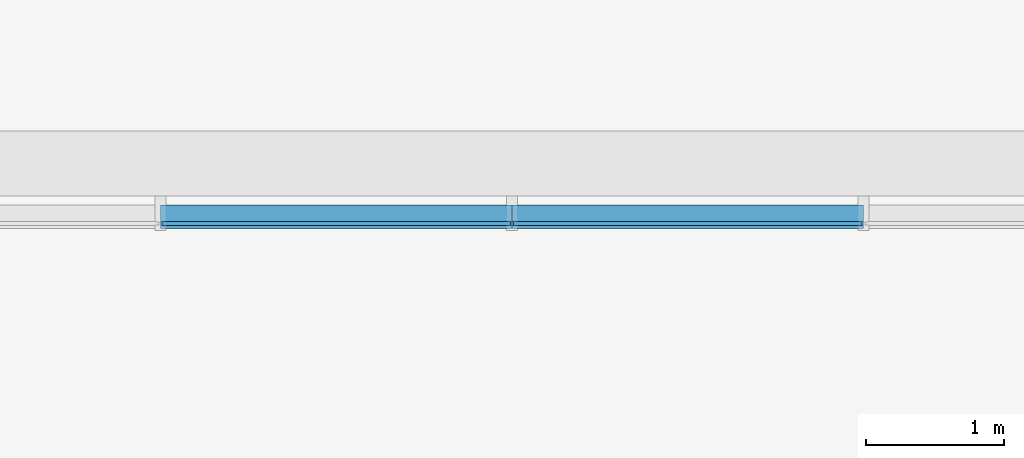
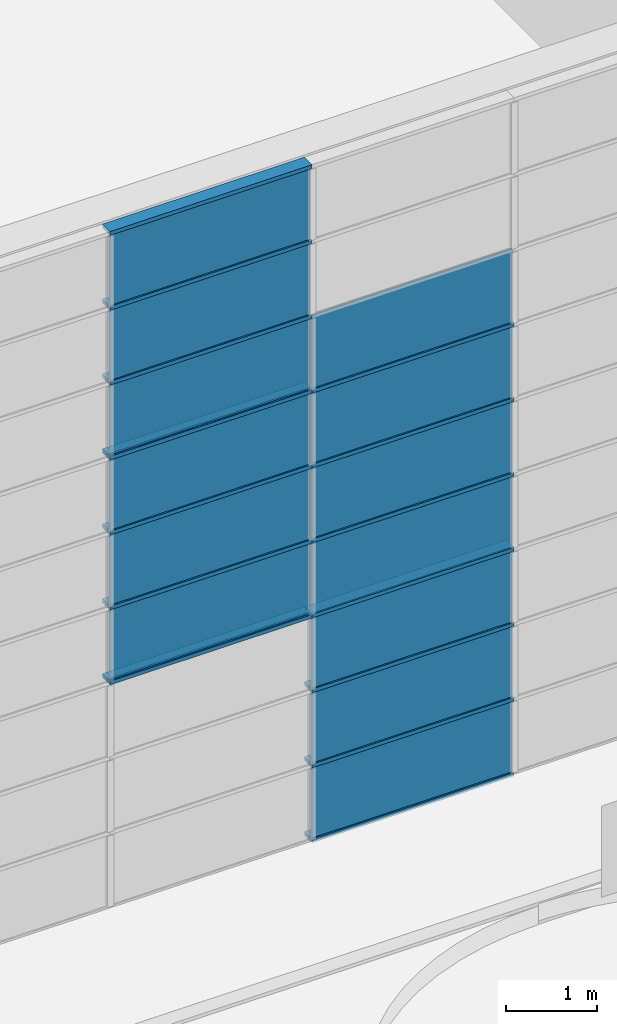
# One storey, part 56 of 105: 30 building element parts, 3 elements without a shape of their own.
"""IFC4 building model written with IfcOpenShell, lengths in millimetres."""

from ifc_helpers import new_model, entity, si_unit, converted_unit, derived_unit, direction, frame, origin_with_axes, place, context, subcontext, project, spatial, triangles, material, element, aggregate, save


model = new_model("IFC4")

# Units and contexts
model_context = context("Model", 3, precision=1e-05, world=origin_with_axes(), true_north=direction((0.0, 1.0)))
body_context = subcontext(model_context, "Body", "Model", "MODEL_VIEW")
ifc_project = project(units=[si_unit("LENGTHUNIT", "METRE", prefix="MILLI"), si_unit("AREAUNIT", "SQUARE_METRE"), si_unit("VOLUMEUNIT", "CUBIC_METRE"), converted_unit("PLANEANGLEUNIT", "DEGREE", entity("IfcLengthMeasure", 0.017453), si_unit("PLANEANGLEUNIT", "RADIAN"), dimensions=[0, 0, 0, 0, 0, 0, 0]), si_unit("SOLIDANGLEUNIT", "STERADIAN"), si_unit("MASSUNIT", "GRAM"), si_unit("TIMEUNIT", "SECOND"), si_unit("THERMODYNAMICTEMPERATUREUNIT", "DEGREE_CELSIUS"), si_unit("LUMINOUSINTENSITYUNIT", "LUMEN"), si_unit("POWERUNIT", "WATT"), derived_unit("THERMALTRANSMITTANCEUNIT", [(si_unit("POWERUNIT", "WATT"), 1), (si_unit("THERMODYNAMICTEMPERATUREUNIT", "KELVIN"), -1), (si_unit("AREAUNIT", "SQUARE_METRE"), -1)])], contexts=[model_context])

# Site, building, storey
site_placement = place(None, origin_with_axes())
site = spatial("IfcSite", under=ifc_project, at=site_placement, Name="Default Site", CompositionType="ELEMENT")
building_placement = place(site_placement, origin_with_axes())
building = spatial("IfcBuilding", under=site, at=building_placement, Name="Default Building", CompositionType="ELEMENT")
storey_placement = place(building_placement, origin_with_axes())
storey = spatial("IfcBuildingStorey", under=building, at=storey_placement, Name="OG - Story", CompositionType="ELEMENT", Elevation=0.0)

# Curtain wall, building element parts
curtain_wall_1_placement = place(storey_placement, origin_with_axes())
curtain_wall_1 = element("IfcCurtainWall", 1, at=curtain_wall_1_placement, inside=storey, Name="Fassade-005", PredefinedType="NOTDEFINED")
ifc_material_1 = material(Name="Normalglas")
building_element_part_1_placement = place(curtain_wall_1_placement, frame((52496.845873, -27789.262838, 3000.0), z_axis=(0.0, 0.0, 1.0), x_axis=(1.0, 0.0, 0.0)))
building_element_part_1 = element("IfcBuildingElementPart", 2, at=building_element_part_1_placement, material=ifc_material_1, Name="Normalglas", PredefinedType="NOTDEFINED", context=body_context, shape_type="Tessellation", body=[
    triangles([(19121.818, 15.0, 995.0), (16590.909, 15.0, 995.0), (16590.909, -14.999, 995.0), (19121.818, -14.999, 995.0), (19121.818, 15.0, 5.0), (16590.909, 15.0, 5.0), (16590.909, -14.999, 5.0), (19121.818, -14.999, 5.0)], [[1, 2, 3], [1, 3, 4], [1, 5, 6], [1, 6, 2], [2, 6, 7], [2, 7, 3], [4, 3, 7], [4, 7, 8], [5, 1, 4], [5, 4, 8], [6, 5, 8], [6, 8, 7]], closed=False),
])
building_element_part_2_placement = place(curtain_wall_1_placement, frame((52496.845873, -27789.262838, 3000.0), z_axis=(0.0, 0.0, 1.0), x_axis=(1.0, 0.0, 0.0)))
building_element_part_2 = element("IfcBuildingElementPart", 3, at=building_element_part_2_placement, material=ifc_material_1, Name="Normalglas", PredefinedType="NOTDEFINED", context=body_context, shape_type="Tessellation", body=[
    triangles([(19121.818, 15.0, 1995.0), (16590.909, 15.0, 1995.0), (16590.909, -14.999, 1995.0), (19121.818, -14.999, 1995.0), (19121.818, 15.0, 1005.0), (16590.909, 15.0, 1005.0), (16590.909, -14.999, 1005.0), (19121.818, -14.999, 1005.0)], [[1, 2, 3], [1, 3, 4], [1, 5, 6], [1, 6, 2], [2, 6, 7], [2, 7, 3], [4, 3, 7], [4, 7, 8], [5, 1, 4], [5, 4, 8], [6, 5, 8], [6, 8, 7]], closed=False),
])
building_element_part_3_placement = place(curtain_wall_1_placement, frame((52496.845873, -27789.262838, 3000.0), z_axis=(0.0, 0.0, 1.0), x_axis=(1.0, 0.0, 0.0)))
building_element_part_3 = element("IfcBuildingElementPart", 4, at=building_element_part_3_placement, material=ifc_material_1, Name="Normalglas", PredefinedType="NOTDEFINED", context=body_context, shape_type="Tessellation", body=[
    triangles([(19121.818, 15.0, 2995.0), (16590.909, 15.0, 2995.0), (16590.909, -14.999, 2995.0), (19121.818, -14.999, 2995.0), (19121.818, 15.0, 2005.0), (16590.909, 15.0, 2005.0), (16590.909, -14.999, 2005.0), (19121.818, -14.999, 2005.0)], [[1, 2, 3], [1, 3, 4], [1, 5, 6], [1, 6, 2], [2, 6, 7], [2, 7, 3], [4, 3, 7], [4, 7, 8], [5, 1, 4], [5, 4, 8], [6, 5, 8], [6, 8, 7]], closed=False),
])
ifc_material_2 = material(Name="Blech")
building_element_part_4_placement = place(curtain_wall_1_placement, frame((52496.845873, -27789.262838, 3000.0), z_axis=(0.0, 0.0, 1.0), x_axis=(1.0, 0.0, 0.0)))
building_element_part_4 = element("IfcBuildingElementPart", 5, at=building_element_part_4_placement, material=ifc_material_2, Name="Blech", PredefinedType="NOTDEFINED", context=body_context, shape_type="Tessellation", body=[
    triangles([(19131.818, 15.0, 25.0), (19131.818, 133.0, 25.0), (19131.818, 15.0, 5.0), (19131.818, 133.0, -24.999), (19131.818, -14.999, 5.0), (19131.818, -34.999, -24.999), (19131.818, -14.999, 25.0), (19131.818, -34.999, 25.0), (16580.909, 15.0, 5.0), (16580.909, -14.999, 5.0), (16580.909, -14.999, 25.0), (16580.909, -34.999, 25.0), (16580.909, -34.999, -24.999), (16580.909, 133.0, -24.999), (16580.909, 133.0, 25.0), (16580.909, 15.0, 25.0)], [[1, 2, 3], [3, 2, 4], [3, 4, 5], [5, 4, 6], [5, 6, 7], [7, 6, 8], [5, 3, 9], [5, 9, 10], [11, 7, 5], [11, 5, 10], [7, 11, 12], [7, 12, 8], [13, 6, 8], [13, 8, 12], [14, 4, 6], [14, 6, 13], [15, 2, 4], [15, 4, 14], [16, 1, 2], [16, 2, 15], [3, 1, 16], [3, 16, 9], [16, 15, 9], [9, 15, 14], [9, 14, 10], [10, 14, 13], [10, 13, 11], [11, 13, 12]], closed=False),
])
building_element_part_5_placement = place(curtain_wall_1_placement, frame((52496.845873, -27789.262838, 3000.0), z_axis=(0.0, 0.0, 1.0), x_axis=(1.0, 0.0, 0.0)))
building_element_part_5 = element("IfcBuildingElementPart", 6, at=building_element_part_5_placement, material=ifc_material_2, Name="Blech", PredefinedType="NOTDEFINED", context=body_context, shape_type="Tessellation", body=[
    triangles([(19131.818, 133.0, 1025.0), (19131.818, 15.0, 1025.0), (19131.818, 133.0, 975.0), (19131.818, 15.0, 1005.0), (19131.818, 15.0, 995.0), (19131.818, -14.999, 1005.0), (19131.818, -14.999, 995.0), (19131.818, -14.999, 975.0), (19131.818, -14.999, 1025.0), (19131.818, -34.999, 1025.0), (19131.818, -34.999, 975.0), (19131.818, 15.0, 975.0), (16580.909, 15.0, 995.0), (16580.909, 15.0, 975.0), (16580.909, 133.0, 975.0), (16580.909, 133.0, 1025.0), (16580.909, 15.0, 1025.0), (16580.909, 15.0, 1005.0), (16580.909, -14.999, 1005.0), (16580.909, -14.999, 1025.0), (16580.909, -34.999, 1025.0), (16580.909, -34.999, 975.0), (16580.909, -14.999, 975.0), (16580.909, -14.999, 995.0)], [[1, 2, 3], [3, 2, 4], [3, 4, 5], [5, 4, 6], [5, 6, 7], [8, 9, 10], [8, 10, 11], [3, 5, 12], [12, 5, 13], [12, 13, 14], [12, 14, 15], [12, 15, 3], [1, 3, 15], [1, 15, 16], [2, 1, 16], [2, 16, 17], [2, 17, 18], [2, 18, 4], [4, 18, 19], [4, 19, 6], [9, 6, 19], [9, 19, 20], [20, 21, 10], [20, 10, 9], [11, 10, 21], [11, 21, 22], [23, 8, 11], [23, 11, 22], [7, 8, 23], [7, 23, 24], [5, 7, 24], [5, 24, 13], [15, 14, 16], [16, 14, 13], [16, 13, 18], [18, 13, 24], [18, 24, 19], [20, 23, 22], [20, 22, 21], [16, 18, 17]], closed=False),
])
building_element_part_6_placement = place(curtain_wall_1_placement, frame((52496.845873, -27789.262838, 3000.0), z_axis=(0.0, 0.0, 1.0), x_axis=(1.0, 0.0, 0.0)))
building_element_part_6 = element("IfcBuildingElementPart", 7, at=building_element_part_6_placement, material=ifc_material_2, Name="Blech", PredefinedType="NOTDEFINED", context=body_context, shape_type="Tessellation", body=[
    triangles([(16580.909, 15.0, 2975.0), (16580.909, 133.0, 2975.0), (16580.909, 15.0, 2995.0), (16580.909, 133.0, 3025.0), (16580.909, -14.999, 2995.0), (16580.909, -34.999, 3025.0), (16580.909, -14.999, 2975.0), (16580.909, -34.999, 2975.0), (14030.0, 15.0, 2995.0), (14030.0, 15.0, 2975.0), (14030.0, 133.0, 2975.0), (14030.0, 133.0, 3025.0), (14030.0, -34.999, 3025.0), (14030.0, -34.999, 2975.0), (14030.0, -14.999, 2975.0), (14030.0, -14.999, 2995.0)], [[1, 2, 3], [3, 2, 4], [3, 4, 5], [5, 4, 6], [5, 6, 7], [7, 6, 8], [3, 9, 10], [3, 10, 1], [10, 11, 2], [10, 2, 1], [11, 12, 4], [11, 4, 2], [12, 13, 6], [12, 6, 4], [13, 14, 8], [13, 8, 6], [7, 8, 14], [7, 14, 15], [15, 16, 5], [15, 5, 7], [5, 16, 9], [5, 9, 3], [10, 11, 9], [9, 11, 12], [9, 12, 16], [16, 12, 13], [16, 13, 15], [15, 13, 14]], closed=False),
])
building_element_part_7_placement = place(curtain_wall_1_placement, frame((52496.845873, -27789.262838, 3000.0), z_axis=(0.0, 0.0, 1.0), x_axis=(1.0, 0.0, 0.0)))
building_element_part_7 = element("IfcBuildingElementPart", 8, at=building_element_part_7_placement, material=ifc_material_2, Name="Blech", PredefinedType="NOTDEFINED", context=body_context, shape_type="Tessellation", body=[
    triangles([(19131.818, 133.0, 2025.0), (19131.818, 15.0, 2025.0), (19131.818, 133.0, 1975.0), (19131.818, 15.0, 2005.0), (19131.818, 15.0, 1995.0), (19131.818, -14.999, 2005.0), (19131.818, -14.999, 1995.0), (19131.818, -14.999, 1975.0), (19131.818, -14.999, 2025.0), (19131.818, -34.999, 2025.0), (19131.818, -34.999, 1975.0), (19131.818, 15.0, 1975.0), (16580.909, 15.0, 1995.0), (16580.909, 15.0, 1975.0), (16580.909, 133.0, 1975.0), (16580.909, 133.0, 2025.0), (16580.909, 15.0, 2025.0), (16580.909, 15.0, 2005.0), (16580.909, -14.999, 2005.0), (16580.909, -14.999, 2025.0), (16580.909, -34.999, 2025.0), (16580.909, -34.999, 1975.0), (16580.909, -14.999, 1975.0), (16580.909, -14.999, 1995.0)], [[1, 2, 3], [3, 2, 4], [3, 4, 5], [5, 4, 6], [5, 6, 7], [8, 9, 10], [8, 10, 11], [3, 5, 12], [12, 5, 13], [12, 13, 14], [12, 14, 15], [12, 15, 3], [1, 3, 15], [1, 15, 16], [2, 1, 16], [2, 16, 17], [2, 17, 18], [2, 18, 4], [4, 18, 19], [4, 19, 6], [9, 6, 19], [9, 19, 20], [20, 21, 10], [20, 10, 9], [11, 10, 21], [11, 21, 22], [23, 8, 11], [23, 11, 22], [7, 8, 23], [7, 23, 24], [5, 7, 24], [5, 24, 13], [15, 14, 16], [16, 14, 13], [16, 13, 18], [18, 13, 24], [18, 24, 19], [20, 23, 22], [20, 22, 21], [16, 18, 17]], closed=False),
])
building_element_part_8_placement = place(curtain_wall_1_placement, frame((52496.845873, -27789.262838, 3000.0), z_axis=(0.0, 0.0, 1.0), x_axis=(1.0, 0.0, 0.0)))
building_element_part_8 = element("IfcBuildingElementPart", 9, at=building_element_part_8_placement, material=ifc_material_2, Name="Blech", PredefinedType="NOTDEFINED", context=body_context, shape_type="Tessellation", body=[
    triangles([(19131.818, 15.0, 2975.0), (19131.818, 133.0, 2975.0), (19131.818, 15.0, 2995.0), (19131.818, 133.0, 3025.0), (19131.818, -14.999, 2995.0), (19131.818, -34.999, 3025.0), (19131.818, -14.999, 2975.0), (19131.818, -34.999, 2975.0), (16580.909, 15.0, 2995.0), (16580.909, 15.0, 2975.0), (16580.909, 133.0, 2975.0), (16580.909, 133.0, 3025.0), (16580.909, -34.999, 3025.0), (16580.909, -34.999, 2975.0), (16580.909, -14.999, 2975.0), (16580.909, -14.999, 2995.0)], [[1, 2, 3], [3, 2, 4], [3, 4, 5], [5, 4, 6], [5, 6, 7], [7, 6, 8], [3, 9, 10], [3, 10, 1], [10, 11, 2], [10, 2, 1], [11, 12, 4], [11, 4, 2], [12, 13, 6], [12, 6, 4], [13, 14, 8], [13, 8, 6], [7, 8, 14], [7, 14, 15], [15, 16, 5], [15, 5, 7], [5, 16, 9], [5, 9, 3], [10, 11, 9], [9, 11, 12], [9, 12, 16], [16, 12, 13], [16, 13, 15], [15, 13, 14]], closed=False),
])
aggregate(curtain_wall_1, [building_element_part_1, building_element_part_2, building_element_part_3, building_element_part_4, building_element_part_5, building_element_part_6, building_element_part_7, building_element_part_8])

curtain_wall_2_placement = place(storey_placement, origin_with_axes())
curtain_wall_2 = element("IfcCurtainWall", 10, at=curtain_wall_2_placement, inside=storey, Name="Fassade-005", PredefinedType="NOTDEFINED")
building_element_part_9_placement = place(curtain_wall_2_placement, frame((52496.845873, -27789.262838, 6000.0), z_axis=(0.0, 0.0, 1.0), x_axis=(1.0, 0.0, 0.0)))
building_element_part_9 = element("IfcBuildingElementPart", 11, at=building_element_part_9_placement, material=ifc_material_1, Name="Normalglas", PredefinedType="NOTDEFINED", context=body_context, shape_type="Tessellation", body=[
    triangles([(16570.909, 15.0, 995.0), (14040.0, 15.0, 995.0), (14040.0, -14.999, 995.0), (16570.909, -14.999, 995.0), (16570.909, 15.0, 5.0), (14040.0, 15.0, 5.0), (14040.0, -14.999, 5.0), (16570.909, -14.999, 5.0)], [[1, 2, 3], [1, 3, 4], [1, 5, 6], [1, 6, 2], [2, 6, 7], [2, 7, 3], [4, 3, 7], [4, 7, 8], [5, 1, 4], [5, 4, 8], [6, 5, 8], [6, 8, 7]], closed=False),
])
building_element_part_10_placement = place(curtain_wall_2_placement, frame((52496.845873, -27789.262838, 6000.0), z_axis=(0.0, 0.0, 1.0), x_axis=(1.0, 0.0, 0.0)))
building_element_part_10 = element("IfcBuildingElementPart", 12, at=building_element_part_10_placement, material=ifc_material_1, Name="Normalglas", PredefinedType="NOTDEFINED", context=body_context, shape_type="Tessellation", body=[
    triangles([(19121.818, 15.0, 995.0), (16590.909, 15.0, 995.0), (16590.909, -14.999, 995.0), (19121.818, -14.999, 995.0), (19121.818, 15.0, 5.0), (16590.909, 15.0, 5.0), (16590.909, -14.999, 5.0), (19121.818, -14.999, 5.0)], [[1, 2, 3], [1, 3, 4], [1, 5, 6], [1, 6, 2], [2, 6, 7], [2, 7, 3], [4, 3, 7], [4, 7, 8], [5, 1, 4], [5, 4, 8], [6, 5, 8], [6, 8, 7]], closed=False),
])
building_element_part_11_placement = place(curtain_wall_2_placement, frame((52496.845873, -27789.262838, 6000.0), z_axis=(0.0, 0.0, 1.0), x_axis=(1.0, 0.0, 0.0)))
building_element_part_11 = element("IfcBuildingElementPart", 13, at=building_element_part_11_placement, material=ifc_material_1, Name="Normalglas", PredefinedType="NOTDEFINED", context=body_context, shape_type="Tessellation", body=[
    triangles([(16570.909, 15.0, 1995.0), (14040.0, 15.0, 1995.0), (14040.0, -14.999, 1995.0), (16570.909, -14.999, 1995.0), (16570.909, 15.0, 1005.0), (14040.0, 15.0, 1005.0), (14040.0, -14.999, 1005.0), (16570.909, -14.999, 1005.0)], [[1, 2, 3], [1, 3, 4], [1, 5, 6], [1, 6, 2], [2, 6, 7], [2, 7, 3], [4, 3, 7], [4, 7, 8], [5, 1, 4], [5, 4, 8], [6, 5, 8], [6, 8, 7]], closed=False),
])
building_element_part_12_placement = place(curtain_wall_2_placement, frame((52496.845873, -27789.262838, 6000.0), z_axis=(0.0, 0.0, 1.0), x_axis=(1.0, 0.0, 0.0)))
building_element_part_12 = element("IfcBuildingElementPart", 14, at=building_element_part_12_placement, material=ifc_material_1, Name="Normalglas", PredefinedType="NOTDEFINED", context=body_context, shape_type="Tessellation", body=[
    triangles([(19121.818, 15.0, 1995.0), (16590.909, 15.0, 1995.0), (16590.909, -14.999, 1995.0), (19121.818, -14.999, 1995.0), (19121.818, 15.0, 1005.0), (16590.909, 15.0, 1005.0), (16590.909, -14.999, 1005.0), (19121.818, -14.999, 1005.0)], [[1, 2, 3], [1, 3, 4], [1, 5, 6], [1, 6, 2], [2, 6, 7], [2, 7, 3], [4, 3, 7], [4, 7, 8], [5, 1, 4], [5, 4, 8], [6, 5, 8], [6, 8, 7]], closed=False),
])
building_element_part_13_placement = place(curtain_wall_2_placement, frame((52496.845873, -27789.262838, 6000.0), z_axis=(0.0, 0.0, 1.0), x_axis=(1.0, 0.0, 0.0)))
building_element_part_13 = element("IfcBuildingElementPart", 15, at=building_element_part_13_placement, material=ifc_material_1, Name="Normalglas", PredefinedType="NOTDEFINED", context=body_context, shape_type="Tessellation", body=[
    triangles([(16570.909, 15.0, 2995.0), (14040.0, 15.0, 2995.0), (14040.0, -14.999, 2995.0), (16570.909, -14.999, 2995.0), (16570.909, 15.0, 2005.0), (14040.0, 15.0, 2005.0), (14040.0, -14.999, 2005.0), (16570.909, -14.999, 2005.0)], [[1, 2, 3], [1, 3, 4], [1, 5, 6], [1, 6, 2], [2, 6, 7], [2, 7, 3], [4, 3, 7], [4, 7, 8], [5, 1, 4], [5, 4, 8], [6, 5, 8], [6, 8, 7]], closed=False),
])
building_element_part_14_placement = place(curtain_wall_2_placement, frame((52496.845873, -27789.262838, 6000.0), z_axis=(0.0, 0.0, 1.0), x_axis=(1.0, 0.0, 0.0)))
building_element_part_14 = element("IfcBuildingElementPart", 16, at=building_element_part_14_placement, material=ifc_material_1, Name="Normalglas", PredefinedType="NOTDEFINED", context=body_context, shape_type="Tessellation", body=[
    triangles([(19121.818, 15.0, 2995.0), (16590.909, 15.0, 2995.0), (16590.909, -14.999, 2995.0), (19121.818, -14.999, 2995.0), (19121.818, 15.0, 2005.0), (16590.909, 15.0, 2005.0), (16590.909, -14.999, 2005.0), (19121.818, -14.999, 2005.0)], [[1, 2, 3], [1, 3, 4], [1, 5, 6], [1, 6, 2], [2, 6, 7], [2, 7, 3], [4, 3, 7], [4, 7, 8], [5, 1, 4], [5, 4, 8], [6, 5, 8], [6, 8, 7]], closed=False),
])
building_element_part_15_placement = place(curtain_wall_2_placement, frame((52496.845873, -27789.262838, 6000.0), z_axis=(0.0, 0.0, 1.0), x_axis=(1.0, 0.0, 0.0)))
building_element_part_15 = element("IfcBuildingElementPart", 17, at=building_element_part_15_placement, material=ifc_material_2, Name="Blech", PredefinedType="NOTDEFINED", context=body_context, shape_type="Tessellation", body=[
    triangles([(16580.909, 15.0, 25.0), (16580.909, 133.0, 25.0), (16580.909, 15.0, 5.0), (16580.909, 133.0, -24.999), (16580.909, -14.999, 5.0), (16580.909, -34.999, -24.999), (16580.909, -14.999, 25.0), (16580.909, -34.999, 25.0), (14030.0, 15.0, 5.0), (14030.0, -14.999, 5.0), (14030.0, -14.999, 25.0), (14030.0, -34.999, 25.0), (14030.0, -34.999, -24.999), (14030.0, 133.0, -24.999), (14030.0, 133.0, 25.0), (14030.0, 15.0, 25.0)], [[1, 2, 3], [3, 2, 4], [3, 4, 5], [5, 4, 6], [5, 6, 7], [7, 6, 8], [5, 3, 9], [5, 9, 10], [11, 7, 5], [11, 5, 10], [7, 11, 12], [7, 12, 8], [13, 6, 8], [13, 8, 12], [14, 4, 6], [14, 6, 13], [15, 2, 4], [15, 4, 14], [16, 1, 2], [16, 2, 15], [3, 1, 16], [3, 16, 9], [16, 15, 9], [9, 15, 14], [9, 14, 10], [10, 14, 13], [10, 13, 11], [11, 13, 12]], closed=False),
])
building_element_part_16_placement = place(curtain_wall_2_placement, frame((52496.845873, -27789.262838, 6000.0), z_axis=(0.0, 0.0, 1.0), x_axis=(1.0, 0.0, 0.0)))
building_element_part_16 = element("IfcBuildingElementPart", 18, at=building_element_part_16_placement, material=ifc_material_2, Name="Blech", PredefinedType="NOTDEFINED", context=body_context, shape_type="Tessellation", body=[
    triangles([(19131.818, 15.0, 25.0), (19131.818, 133.0, 25.0), (19131.818, 15.0, 5.0), (19131.818, 133.0, -24.999), (19131.818, -14.999, 5.0), (19131.818, -34.999, -24.999), (19131.818, -14.999, 25.0), (19131.818, -34.999, 25.0), (16580.909, 15.0, 5.0), (16580.909, -14.999, 5.0), (16580.909, -14.999, 25.0), (16580.909, -34.999, 25.0), (16580.909, -34.999, -24.999), (16580.909, 133.0, -24.999), (16580.909, 133.0, 25.0), (16580.909, 15.0, 25.0)], [[1, 2, 3], [3, 2, 4], [3, 4, 5], [5, 4, 6], [5, 6, 7], [7, 6, 8], [5, 3, 9], [5, 9, 10], [11, 7, 5], [11, 5, 10], [7, 11, 12], [7, 12, 8], [13, 6, 8], [13, 8, 12], [14, 4, 6], [14, 6, 13], [15, 2, 4], [15, 4, 14], [16, 1, 2], [16, 2, 15], [3, 1, 16], [3, 16, 9], [16, 15, 9], [9, 15, 14], [9, 14, 10], [10, 14, 13], [10, 13, 11], [11, 13, 12]], closed=False),
])
building_element_part_17_placement = place(curtain_wall_2_placement, frame((52496.845873, -27789.262838, 6000.0), z_axis=(0.0, 0.0, 1.0), x_axis=(1.0, 0.0, 0.0)))
building_element_part_17 = element("IfcBuildingElementPart", 19, at=building_element_part_17_placement, material=ifc_material_2, Name="Blech", PredefinedType="NOTDEFINED", context=body_context, shape_type="Tessellation", body=[
    triangles([(16580.909, 133.0, 1025.0), (16580.909, 15.0, 1025.0), (16580.909, 133.0, 975.0), (16580.909, 15.0, 1005.0), (16580.909, 15.0, 995.0), (16580.909, -14.999, 1005.0), (16580.909, -14.999, 995.0), (16580.909, -14.999, 975.0), (16580.909, -14.999, 1025.0), (16580.909, -34.999, 1025.0), (16580.909, -34.999, 975.0), (16580.909, 15.0, 975.0), (14030.0, 15.0, 995.0), (14030.0, 15.0, 975.0), (14030.0, 133.0, 975.0), (14030.0, 133.0, 1025.0), (14030.0, 15.0, 1025.0), (14030.0, 15.0, 1005.0), (14030.0, -14.999, 1005.0), (14030.0, -14.999, 1025.0), (14030.0, -34.999, 1025.0), (14030.0, -34.999, 975.0), (14030.0, -14.999, 975.0), (14030.0, -14.999, 995.0)], [[1, 2, 3], [3, 2, 4], [3, 4, 5], [5, 4, 6], [5, 6, 7], [8, 9, 10], [8, 10, 11], [3, 5, 12], [12, 5, 13], [12, 13, 14], [12, 14, 15], [12, 15, 3], [1, 3, 15], [1, 15, 16], [2, 1, 16], [2, 16, 17], [2, 17, 18], [2, 18, 4], [4, 18, 19], [4, 19, 6], [9, 6, 19], [9, 19, 20], [20, 21, 10], [20, 10, 9], [11, 10, 21], [11, 21, 22], [23, 8, 11], [23, 11, 22], [7, 8, 23], [7, 23, 24], [5, 7, 24], [5, 24, 13], [15, 14, 16], [16, 14, 13], [16, 13, 18], [18, 13, 24], [18, 24, 19], [20, 23, 22], [20, 22, 21], [16, 18, 17]], closed=False),
])
building_element_part_18_placement = place(curtain_wall_2_placement, frame((52496.845873, -27789.262838, 6000.0), z_axis=(0.0, 0.0, 1.0), x_axis=(1.0, 0.0, 0.0)))
building_element_part_18 = element("IfcBuildingElementPart", 20, at=building_element_part_18_placement, material=ifc_material_2, Name="Blech", PredefinedType="NOTDEFINED", context=body_context, shape_type="Tessellation", body=[
    triangles([(19131.818, 133.0, 1025.0), (19131.818, 15.0, 1025.0), (19131.818, 133.0, 975.0), (19131.818, 15.0, 1005.0), (19131.818, 15.0, 995.0), (19131.818, -14.999, 1005.0), (19131.818, -14.999, 995.0), (19131.818, -14.999, 975.0), (19131.818, -14.999, 1025.0), (19131.818, -34.999, 1025.0), (19131.818, -34.999, 975.0), (19131.818, 15.0, 975.0), (16580.909, 15.0, 995.0), (16580.909, 15.0, 975.0), (16580.909, 133.0, 975.0), (16580.909, 133.0, 1025.0), (16580.909, 15.0, 1025.0), (16580.909, 15.0, 1005.0), (16580.909, -14.999, 1005.0), (16580.909, -14.999, 1025.0), (16580.909, -34.999, 1025.0), (16580.909, -34.999, 975.0), (16580.909, -14.999, 975.0), (16580.909, -14.999, 995.0)], [[1, 2, 3], [3, 2, 4], [3, 4, 5], [5, 4, 6], [5, 6, 7], [8, 9, 10], [8, 10, 11], [3, 5, 12], [12, 5, 13], [12, 13, 14], [12, 14, 15], [12, 15, 3], [1, 3, 15], [1, 15, 16], [2, 1, 16], [2, 16, 17], [2, 17, 18], [2, 18, 4], [4, 18, 19], [4, 19, 6], [9, 6, 19], [9, 19, 20], [20, 21, 10], [20, 10, 9], [11, 10, 21], [11, 21, 22], [23, 8, 11], [23, 11, 22], [7, 8, 23], [7, 23, 24], [5, 7, 24], [5, 24, 13], [15, 14, 16], [16, 14, 13], [16, 13, 18], [18, 13, 24], [18, 24, 19], [20, 23, 22], [20, 22, 21], [16, 18, 17]], closed=False),
])
building_element_part_19_placement = place(curtain_wall_2_placement, frame((52496.845873, -27789.262838, 6000.0), z_axis=(0.0, 0.0, 1.0), x_axis=(1.0, 0.0, 0.0)))
building_element_part_19 = element("IfcBuildingElementPart", 21, at=building_element_part_19_placement, material=ifc_material_2, Name="Blech", PredefinedType="NOTDEFINED", context=body_context, shape_type="Tessellation", body=[
    triangles([(16580.909, 133.0, 2025.0), (16580.909, 15.0, 2025.0), (16580.909, 133.0, 1975.0), (16580.909, 15.0, 2005.0), (16580.909, 15.0, 1995.0), (16580.909, -14.999, 2005.0), (16580.909, -14.999, 1995.0), (16580.909, -14.999, 1975.0), (16580.909, -14.999, 2025.0), (16580.909, -34.999, 2025.0), (16580.909, -34.999, 1975.0), (16580.909, 15.0, 1975.0), (14030.0, 15.0, 1995.0), (14030.0, 15.0, 1975.0), (14030.0, 133.0, 1975.0), (14030.0, 133.0, 2025.0), (14030.0, 15.0, 2025.0), (14030.0, 15.0, 2005.0), (14030.0, -14.999, 2005.0), (14030.0, -14.999, 2025.0), (14030.0, -34.999, 2025.0), (14030.0, -34.999, 1975.0), (14030.0, -14.999, 1975.0), (14030.0, -14.999, 1995.0)], [[1, 2, 3], [3, 2, 4], [3, 4, 5], [5, 4, 6], [5, 6, 7], [8, 9, 10], [8, 10, 11], [3, 5, 12], [12, 5, 13], [12, 13, 14], [12, 14, 15], [12, 15, 3], [1, 3, 15], [1, 15, 16], [2, 1, 16], [2, 16, 17], [2, 17, 18], [2, 18, 4], [4, 18, 19], [4, 19, 6], [9, 6, 19], [9, 19, 20], [20, 21, 10], [20, 10, 9], [11, 10, 21], [11, 21, 22], [23, 8, 11], [23, 11, 22], [7, 8, 23], [7, 23, 24], [5, 7, 24], [5, 24, 13], [15, 14, 16], [16, 14, 13], [16, 13, 18], [18, 13, 24], [18, 24, 19], [20, 23, 22], [20, 22, 21], [16, 18, 17]], closed=False),
])
building_element_part_20_placement = place(curtain_wall_2_placement, frame((52496.845873, -27789.262838, 6000.0), z_axis=(0.0, 0.0, 1.0), x_axis=(1.0, 0.0, 0.0)))
building_element_part_20 = element("IfcBuildingElementPart", 22, at=building_element_part_20_placement, material=ifc_material_2, Name="Blech", PredefinedType="NOTDEFINED", context=body_context, shape_type="Tessellation", body=[
    triangles([(16580.909, 15.0, 2975.0), (16580.909, 133.0, 2975.0), (16580.909, 15.0, 2995.0), (16580.909, 133.0, 3025.0), (16580.909, -14.999, 2995.0), (16580.909, -34.999, 3025.0), (16580.909, -14.999, 2975.0), (16580.909, -34.999, 2975.0), (14030.0, 15.0, 2995.0), (14030.0, 15.0, 2975.0), (14030.0, 133.0, 2975.0), (14030.0, 133.0, 3025.0), (14030.0, -34.999, 3025.0), (14030.0, -34.999, 2975.0), (14030.0, -14.999, 2975.0), (14030.0, -14.999, 2995.0)], [[1, 2, 3], [3, 2, 4], [3, 4, 5], [5, 4, 6], [5, 6, 7], [7, 6, 8], [3, 9, 10], [3, 10, 1], [10, 11, 2], [10, 2, 1], [11, 12, 4], [11, 4, 2], [12, 13, 6], [12, 6, 4], [13, 14, 8], [13, 8, 6], [7, 8, 14], [7, 14, 15], [15, 16, 5], [15, 5, 7], [5, 16, 9], [5, 9, 3], [10, 11, 9], [9, 11, 12], [9, 12, 16], [16, 12, 13], [16, 13, 15], [15, 13, 14]], closed=False),
])
building_element_part_21_placement = place(curtain_wall_2_placement, frame((52496.845873, -27789.262838, 6000.0), z_axis=(0.0, 0.0, 1.0), x_axis=(1.0, 0.0, 0.0)))
building_element_part_21 = element("IfcBuildingElementPart", 23, at=building_element_part_21_placement, material=ifc_material_2, Name="Blech", PredefinedType="NOTDEFINED", context=body_context, shape_type="Tessellation", body=[
    triangles([(19131.818, 133.0, 2025.0), (19131.818, 15.0, 2025.0), (19131.818, 133.0, 1975.0), (19131.818, 15.0, 2005.0), (19131.818, 15.0, 1995.0), (19131.818, -14.999, 2005.0), (19131.818, -14.999, 1995.0), (19131.818, -14.999, 1975.0), (19131.818, -14.999, 2025.0), (19131.818, -34.999, 2025.0), (19131.818, -34.999, 1975.0), (19131.818, 15.0, 1975.0), (16580.909, 15.0, 1995.0), (16580.909, 15.0, 1975.0), (16580.909, 133.0, 1975.0), (16580.909, 133.0, 2025.0), (16580.909, 15.0, 2025.0), (16580.909, 15.0, 2005.0), (16580.909, -14.999, 2005.0), (16580.909, -14.999, 2025.0), (16580.909, -34.999, 2025.0), (16580.909, -34.999, 1975.0), (16580.909, -14.999, 1975.0), (16580.909, -14.999, 1995.0)], [[1, 2, 3], [3, 2, 4], [3, 4, 5], [5, 4, 6], [5, 6, 7], [8, 9, 10], [8, 10, 11], [3, 5, 12], [12, 5, 13], [12, 13, 14], [12, 14, 15], [12, 15, 3], [1, 3, 15], [1, 15, 16], [2, 1, 16], [2, 16, 17], [2, 17, 18], [2, 18, 4], [4, 18, 19], [4, 19, 6], [9, 6, 19], [9, 19, 20], [20, 21, 10], [20, 10, 9], [11, 10, 21], [11, 21, 22], [23, 8, 11], [23, 11, 22], [7, 8, 23], [7, 23, 24], [5, 7, 24], [5, 24, 13], [15, 14, 16], [16, 14, 13], [16, 13, 18], [18, 13, 24], [18, 24, 19], [20, 23, 22], [20, 22, 21], [16, 18, 17]], closed=False),
])
building_element_part_22_placement = place(curtain_wall_2_placement, frame((52496.845873, -27789.262838, 6000.0), z_axis=(0.0, 0.0, 1.0), x_axis=(1.0, 0.0, 0.0)))
building_element_part_22 = element("IfcBuildingElementPart", 24, at=building_element_part_22_placement, material=ifc_material_2, Name="Blech", PredefinedType="NOTDEFINED", context=body_context, shape_type="Tessellation", body=[
    triangles([(19131.818, 15.0, 2975.0), (19131.818, 133.0, 2975.0), (19131.818, 15.0, 2995.0), (19131.818, 133.0, 3025.0), (19131.818, -14.999, 2995.0), (19131.818, -34.999, 3025.0), (19131.818, -14.999, 2975.0), (19131.818, -34.999, 2975.0), (16580.909, 15.0, 2995.0), (16580.909, 15.0, 2975.0), (16580.909, 133.0, 2975.0), (16580.909, 133.0, 3025.0), (16580.909, -34.999, 3025.0), (16580.909, -34.999, 2975.0), (16580.909, -14.999, 2975.0), (16580.909, -14.999, 2995.0)], [[1, 2, 3], [3, 2, 4], [3, 4, 5], [5, 4, 6], [5, 6, 7], [7, 6, 8], [3, 9, 10], [3, 10, 1], [10, 11, 2], [10, 2, 1], [11, 12, 4], [11, 4, 2], [12, 13, 6], [12, 6, 4], [13, 14, 8], [13, 8, 6], [7, 8, 14], [7, 14, 15], [15, 16, 5], [15, 5, 7], [5, 16, 9], [5, 9, 3], [10, 11, 9], [9, 11, 12], [9, 12, 16], [16, 12, 13], [16, 13, 15], [15, 13, 14]], closed=False),
])
aggregate(curtain_wall_2, [building_element_part_9, building_element_part_10, building_element_part_11, building_element_part_12, building_element_part_13, building_element_part_14, building_element_part_15, building_element_part_16, building_element_part_17, building_element_part_18, building_element_part_19, building_element_part_20, building_element_part_21, building_element_part_22])

curtain_wall_3_placement = place(storey_placement, origin_with_axes())
curtain_wall_3 = element("IfcCurtainWall", 25, at=curtain_wall_3_placement, inside=storey, Name="Fassade-005", PredefinedType="NOTDEFINED")
building_element_part_23_placement = place(curtain_wall_3_placement, frame((52496.845873, -27789.262838, 9000.0), z_axis=(0.0, 0.0, 1.0), x_axis=(1.0, 0.0, 0.0)))
building_element_part_23 = element("IfcBuildingElementPart", 26, at=building_element_part_23_placement, material=ifc_material_1, Name="Normalglas", PredefinedType="NOTDEFINED", context=body_context, shape_type="Tessellation", body=[
    triangles([(16570.909, 15.0, 995.0), (14040.0, 15.0, 995.0), (14040.0, -14.999, 995.0), (16570.909, -14.999, 995.0), (16570.909, 15.0, 5.0), (14040.0, 15.0, 5.0), (14040.0, -14.999, 5.0), (16570.909, -14.999, 5.0)], [[1, 2, 3], [1, 3, 4], [1, 5, 6], [1, 6, 2], [2, 6, 7], [2, 7, 3], [4, 3, 7], [4, 7, 8], [5, 1, 4], [5, 4, 8], [6, 5, 8], [6, 8, 7]], closed=False),
])
building_element_part_24_placement = place(curtain_wall_3_placement, frame((52496.845873, -27789.262838, 9000.0), z_axis=(0.0, 0.0, 1.0), x_axis=(1.0, 0.0, 0.0)))
building_element_part_24 = element("IfcBuildingElementPart", 27, at=building_element_part_24_placement, material=ifc_material_1, Name="Normalglas", PredefinedType="NOTDEFINED", context=body_context, shape_type="Tessellation", body=[
    triangles([(19121.818, 15.0, 995.0), (16590.909, 15.0, 995.0), (16590.909, -14.999, 995.0), (19121.818, -14.999, 995.0), (19121.818, 15.0, 5.0), (16590.909, 15.0, 5.0), (16590.909, -14.999, 5.0), (19121.818, -14.999, 5.0)], [[1, 2, 3], [1, 3, 4], [1, 5, 6], [1, 6, 2], [2, 6, 7], [2, 7, 3], [4, 3, 7], [4, 7, 8], [5, 1, 4], [5, 4, 8], [6, 5, 8], [6, 8, 7]], closed=False),
])
building_element_part_25_placement = place(curtain_wall_3_placement, frame((52496.845873, -27789.262838, 9000.0), z_axis=(0.0, 0.0, 1.0), x_axis=(1.0, 0.0, 0.0)))
building_element_part_25 = element("IfcBuildingElementPart", 28, at=building_element_part_25_placement, material=ifc_material_1, Name="Normalglas", PredefinedType="NOTDEFINED", context=body_context, shape_type="Tessellation", body=[
    triangles([(16570.909, 15.0, 1995.0), (14040.0, 15.0, 1995.0), (14040.0, -14.999, 1995.0), (16570.909, -14.999, 1995.0), (16570.909, 15.0, 1005.0), (14040.0, 15.0, 1005.0), (14040.0, -14.999, 1005.0), (16570.909, -14.999, 1005.0)], [[1, 2, 3], [1, 3, 4], [1, 5, 6], [1, 6, 2], [2, 6, 7], [2, 7, 3], [4, 3, 7], [4, 7, 8], [5, 1, 4], [5, 4, 8], [6, 5, 8], [6, 8, 7]], closed=False),
])
building_element_part_26_placement = place(curtain_wall_3_placement, frame((52496.845873, -27789.262838, 9000.0), z_axis=(0.0, 0.0, 1.0), x_axis=(1.0, 0.0, 0.0)))
building_element_part_26 = element("IfcBuildingElementPart", 29, at=building_element_part_26_placement, material=ifc_material_1, Name="Normalglas", PredefinedType="NOTDEFINED", context=body_context, shape_type="Tessellation", body=[
    triangles([(16570.909, 15.0, 2995.0), (14040.0, 15.0, 2995.0), (14040.0, -14.999, 2995.0), (16570.909, -14.999, 2995.0), (16570.909, 15.0, 2005.0), (14040.0, 15.0, 2005.0), (14040.0, -14.999, 2005.0), (16570.909, -14.999, 2005.0)], [[1, 2, 3], [1, 3, 4], [1, 5, 6], [1, 6, 2], [2, 6, 7], [2, 7, 3], [4, 3, 7], [4, 7, 8], [5, 1, 4], [5, 4, 8], [6, 5, 8], [6, 8, 7]], closed=False),
])
building_element_part_27_placement = place(curtain_wall_3_placement, frame((52496.845873, -27789.262838, 9000.0), z_axis=(0.0, 0.0, 1.0), x_axis=(1.0, 0.0, 0.0)))
building_element_part_27 = element("IfcBuildingElementPart", 30, at=building_element_part_27_placement, material=ifc_material_2, Name="Blech", PredefinedType="NOTDEFINED", context=body_context, shape_type="Tessellation", body=[
    triangles([(16580.909, 15.0, 25.0), (16580.909, 133.0, 25.0), (16580.909, 15.0, 5.0), (16580.909, 133.0, -24.999), (16580.909, -14.999, 5.0), (16580.909, -34.999, -24.999), (16580.909, -14.999, 25.0), (16580.909, -34.999, 25.0), (14030.0, 15.0, 5.0), (14030.0, -14.999, 5.0), (14030.0, -14.999, 25.0), (14030.0, -34.999, 25.0), (14030.0, -34.999, -24.999), (14030.0, 133.0, -24.999), (14030.0, 133.0, 25.0), (14030.0, 15.0, 25.0)], [[1, 2, 3], [3, 2, 4], [3, 4, 5], [5, 4, 6], [5, 6, 7], [7, 6, 8], [5, 3, 9], [5, 9, 10], [11, 7, 5], [11, 5, 10], [7, 11, 12], [7, 12, 8], [13, 6, 8], [13, 8, 12], [14, 4, 6], [14, 6, 13], [15, 2, 4], [15, 4, 14], [16, 1, 2], [16, 2, 15], [3, 1, 16], [3, 16, 9], [16, 15, 9], [9, 15, 14], [9, 14, 10], [10, 14, 13], [10, 13, 11], [11, 13, 12]], closed=False),
])
building_element_part_28_placement = place(curtain_wall_3_placement, frame((52496.845873, -27789.262838, 9000.0), z_axis=(0.0, 0.0, 1.0), x_axis=(1.0, 0.0, 0.0)))
building_element_part_28 = element("IfcBuildingElementPart", 31, at=building_element_part_28_placement, material=ifc_material_2, Name="Blech", PredefinedType="NOTDEFINED", context=body_context, shape_type="Tessellation", body=[
    triangles([(16580.909, 133.0, 1025.0), (16580.909, 15.0, 1025.0), (16580.909, 133.0, 975.0), (16580.909, 15.0, 1005.0), (16580.909, 15.0, 995.0), (16580.909, -14.999, 1005.0), (16580.909, -14.999, 995.0), (16580.909, -14.999, 975.0), (16580.909, -14.999, 1025.0), (16580.909, -34.999, 1025.0), (16580.909, -34.999, 975.0), (16580.909, 15.0, 975.0), (14030.0, 15.0, 995.0), (14030.0, 15.0, 975.0), (14030.0, 133.0, 975.0), (14030.0, 133.0, 1025.0), (14030.0, 15.0, 1025.0), (14030.0, 15.0, 1005.0), (14030.0, -14.999, 1005.0), (14030.0, -14.999, 1025.0), (14030.0, -34.999, 1025.0), (14030.0, -34.999, 975.0), (14030.0, -14.999, 975.0), (14030.0, -14.999, 995.0)], [[1, 2, 3], [3, 2, 4], [3, 4, 5], [5, 4, 6], [5, 6, 7], [8, 9, 10], [8, 10, 11], [3, 5, 12], [12, 5, 13], [12, 13, 14], [12, 14, 15], [12, 15, 3], [1, 3, 15], [1, 15, 16], [2, 1, 16], [2, 16, 17], [2, 17, 18], [2, 18, 4], [4, 18, 19], [4, 19, 6], [9, 6, 19], [9, 19, 20], [20, 21, 10], [20, 10, 9], [11, 10, 21], [11, 21, 22], [23, 8, 11], [23, 11, 22], [7, 8, 23], [7, 23, 24], [5, 7, 24], [5, 24, 13], [15, 14, 16], [16, 14, 13], [16, 13, 18], [18, 13, 24], [18, 24, 19], [20, 23, 22], [20, 22, 21], [16, 18, 17]], closed=False),
])
building_element_part_29_placement = place(curtain_wall_3_placement, frame((52496.845873, -27789.262838, 9000.0), z_axis=(0.0, 0.0, 1.0), x_axis=(1.0, 0.0, 0.0)))
building_element_part_29 = element("IfcBuildingElementPart", 32, at=building_element_part_29_placement, material=ifc_material_2, Name="Blech", PredefinedType="NOTDEFINED", context=body_context, shape_type="Tessellation", body=[
    triangles([(16580.909, 133.0, 2025.0), (16580.909, 15.0, 2025.0), (16580.909, 133.0, 1975.0), (16580.909, 15.0, 2005.0), (16580.909, 15.0, 1995.0), (16580.909, -14.999, 2005.0), (16580.909, -14.999, 1995.0), (16580.909, -14.999, 1975.0), (16580.909, -14.999, 2025.0), (16580.909, -34.999, 2025.0), (16580.909, -34.999, 1975.0), (16580.909, 15.0, 1975.0), (14030.0, 15.0, 1995.0), (14030.0, 15.0, 1975.0), (14030.0, 133.0, 1975.0), (14030.0, 133.0, 2025.0), (14030.0, 15.0, 2025.0), (14030.0, 15.0, 2005.0), (14030.0, -14.999, 2005.0), (14030.0, -14.999, 2025.0), (14030.0, -34.999, 2025.0), (14030.0, -34.999, 1975.0), (14030.0, -14.999, 1975.0), (14030.0, -14.999, 1995.0)], [[1, 2, 3], [3, 2, 4], [3, 4, 5], [5, 4, 6], [5, 6, 7], [8, 9, 10], [8, 10, 11], [3, 5, 12], [12, 5, 13], [12, 13, 14], [12, 14, 15], [12, 15, 3], [1, 3, 15], [1, 15, 16], [2, 1, 16], [2, 16, 17], [2, 17, 18], [2, 18, 4], [4, 18, 19], [4, 19, 6], [9, 6, 19], [9, 19, 20], [20, 21, 10], [20, 10, 9], [11, 10, 21], [11, 21, 22], [23, 8, 11], [23, 11, 22], [7, 8, 23], [7, 23, 24], [5, 7, 24], [5, 24, 13], [15, 14, 16], [16, 14, 13], [16, 13, 18], [18, 13, 24], [18, 24, 19], [20, 23, 22], [20, 22, 21], [16, 18, 17]], closed=False),
])
building_element_part_30_placement = place(curtain_wall_3_placement, frame((52496.845873, -27789.262838, 9000.0), z_axis=(0.0, 0.0, 1.0), x_axis=(1.0, 0.0, 0.0)))
building_element_part_30 = element("IfcBuildingElementPart", 33, at=building_element_part_30_placement, material=ifc_material_2, Name="Blech", PredefinedType="NOTDEFINED", context=body_context, shape_type="Tessellation", body=[
    triangles([(16580.909, 15.0, 2975.0), (16580.909, 133.0, 2975.0), (16580.909, 15.0, 2995.0), (16580.909, 133.0, 3025.0), (16580.909, -14.999, 2995.0), (16580.909, -34.999, 3025.0), (16580.909, -14.999, 2975.0), (16580.909, -34.999, 2975.0), (14030.0, 15.0, 2995.0), (14030.0, 15.0, 2975.0), (14030.0, 133.0, 2975.0), (14030.0, 133.0, 3025.0), (14030.0, -34.999, 3025.0), (14030.0, -34.999, 2975.0), (14030.0, -14.999, 2975.0), (14030.0, -14.999, 2995.0)], [[1, 2, 3], [3, 2, 4], [3, 4, 5], [5, 4, 6], [5, 6, 7], [7, 6, 8], [3, 9, 10], [3, 10, 1], [10, 11, 2], [10, 2, 1], [11, 12, 4], [11, 4, 2], [12, 13, 6], [12, 6, 4], [13, 14, 8], [13, 8, 6], [7, 8, 14], [7, 14, 15], [15, 16, 5], [15, 5, 7], [5, 16, 9], [5, 9, 3], [10, 11, 9], [9, 11, 12], [9, 12, 16], [16, 12, 13], [16, 13, 15], [15, 13, 14]], closed=False),
])
aggregate(curtain_wall_3, [building_element_part_23, building_element_part_24, building_element_part_25, building_element_part_26, building_element_part_27, building_element_part_28, building_element_part_29, building_element_part_30])

save(model, "model.ifc")
